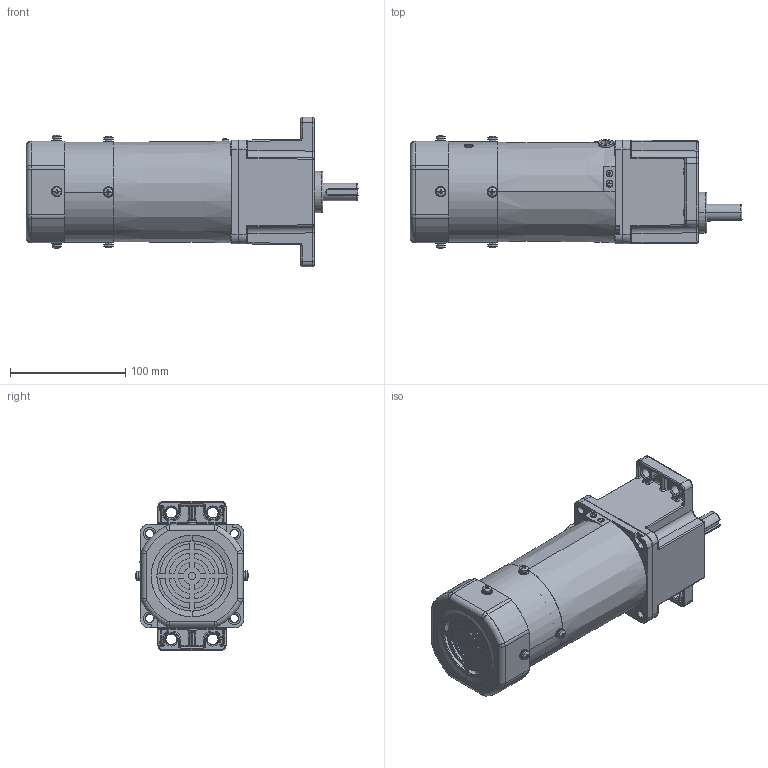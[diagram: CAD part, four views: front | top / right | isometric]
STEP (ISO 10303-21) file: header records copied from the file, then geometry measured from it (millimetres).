
FILE_DESCRIPTION (( 'STEP AP203' ), '1' );
FILE_NAME ('5RK90GU-CMF(5GU3K-200K).STEP', '2023-08-08T08:27:09', ( 'Windows User' ), ( 'P R C' ), 'SwSTEP 2.0', 'SolidWorks 2019', '' );
FILE_SCHEMA (( 'CONFIG_CONTROL_DESIGN' ));
Length unit declared in the file: millimetre
Products named in the file (10): ^_5GU3K-200K_5RK90GU-CMF(5GU3K-200K)(2)_5RK90GU-CMF(5GU3K-200K); ^5GU3K-200K_5RK90GU-CMF(5GU3K-200K)(2)_5RK90GU-CMF(5GU3K-200K); M3^5RK90A-CMF_5RK90GU-CMF(5GU3K-200K)(2)_5RK90GU-CMF(5GU3K-200K); 90FZ^5RK90A-CMF_5RK90GU-CMF(5GU3K-200K)(2)_5RK90GU-CMF(5GU3K-200K); 5RK90GU-CMF(5GU3K-200K)(2)^5RK90GU-CMF(5GU3K-200K); 90SCZ^5RK90A-CMF_5RK90GU-CMF(5GU3K-200K)(2)_5RK90GU-CMF(5GU3K-200K); 5GU3K-200K^5RK90GU-CMF(5GU3K-200K)(2)_5RK90GU-CMF(5GU3K-200K); 90JK^5RK90A-CMF_5RK90GU-CMF(5GU3K-200K)(2)_5RK90GU-CMF(5GU3K-200K); 5RK90GU-CMF(5GU3K-200K); 5RK90A-CMF^5RK90GU-CMF(5GU3K-200K)(2)_5RK90GU-CMF(5GU3K-200K)
Assembly tree (9 placements, depth 5):
  5RK90GU-CMF(5GU3K-200K)
    5RK90GU-CMF(5GU3K-200K)(2)^5RK90GU-CMF(5GU3K-200K)
      5RK90A-CMF^5RK90GU-CMF(5GU3K-200K)(2)_5RK90GU-CMF(5GU3K-200K)
        90JK^5RK90A-CMF_5RK90GU-CMF(5GU3K-200K)(2)_5RK90GU-CMF(5GU3K-200K)
        M3^5RK90A-CMF_5RK90GU-CMF(5GU3K-200K)(2)_5RK90GU-CMF(5GU3K-200K)
        90SCZ^5RK90A-CMF_5RK90GU-CMF(5GU3K-200K)(2)_5RK90GU-CMF(5GU3K-200K)
        90FZ^5RK90A-CMF_5RK90GU-CMF(5GU3K-200K)(2)_5RK90GU-CMF(5GU3K-200K)
      5GU3K-200K^5RK90GU-CMF(5GU3K-200K)(2)_5RK90GU-CMF(5GU3K-200K)
        ^5GU3K-200K_5RK90GU-CMF(5GU3K-200K)(2)_5RK90GU-CMF(5GU3K-200K)
          ^_5GU3K-200K_5RK90GU-CMF(5GU3K-200K)(2)_5RK90GU-CMF(5GU3K-200K)
Bounding box: 288 x 98.11 x 129.97 mm (x, y, z)
Volume: 1264747.5 mm3; surface area: 179522.5 mm2
Topology: 30 solids, 30 shells, 1340 faces, 3341 edges, 2035 vertices
Faces by surface type: cylinder 554, plane 379, cone 159, bspline 117, torus 71, sphere 60
Entity records: 49594 total; most frequent: CARTESIAN_POINT 17074, DIRECTION 6782, ORIENTED_EDGE 6544, EDGE_CURVE 3272, AXIS2_PLACEMENT_3D 2733, VERTEX_POINT 2034, CIRCLE 1494, EDGE_LOOP 1466
